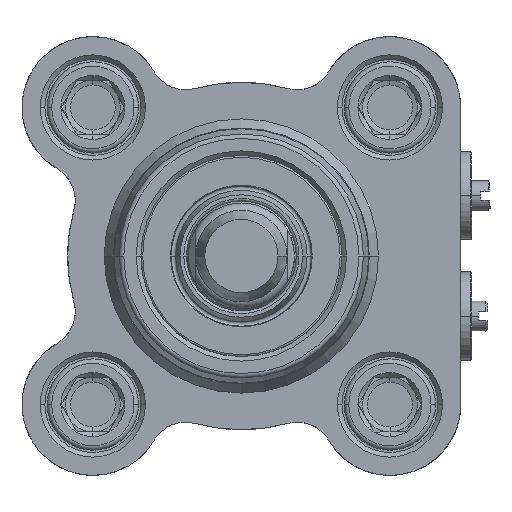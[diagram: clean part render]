
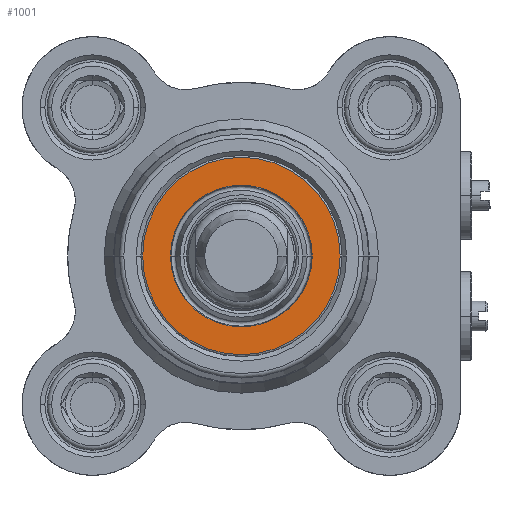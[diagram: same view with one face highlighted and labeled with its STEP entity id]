
A CAD part, front view. The second image highlights one B-rep face of the part: STEP entity #1001.
In plain terms, the highlighted planar face has unit normal (0, -1, 0).
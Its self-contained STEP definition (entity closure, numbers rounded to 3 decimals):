
#176 = AXIS2_PLACEMENT_3D ( 'NONE', #17705, #19521, #5522 ) ;
#832 = CARTESIAN_POINT ( 'NONE',  ( 0., -76.8, 0. ) ) ;
#961 = DIRECTION ( 'NONE',  ( -1., 0., 0. ) ) ;
#1001 = ADVANCED_FACE ( 'NONE', ( #5660, #12084 ), #10107, .F. ) ;
#1079 = AXIS2_PLACEMENT_3D ( 'NONE', #23146, #19489, #7461 ) ;
#1741 = ORIENTED_EDGE ( 'NONE', *, *, #17483, .F. ) ;
#3148 = VERTEX_POINT ( 'NONE', #12093 ) ;
#3558 = CIRCLE ( 'NONE', #1079, 10.8 ) ;
#5522 = DIRECTION ( 'NONE',  ( 0., 0., -1. ) ) ;
#5660 = FACE_OUTER_BOUND ( 'NONE', #7911, .T. ) ;
#6402 = CIRCLE ( 'NONE', #14779, 7.75 ) ;
#7461 = DIRECTION ( 'NONE',  ( -1., 0., 0. ) ) ;
#7911 = EDGE_LOOP ( 'NONE', ( #18417, #12085 ) ) ;
#9035 = DIRECTION ( 'NONE',  ( 0., -1., 0. ) ) ;
#9161 = VERTEX_POINT ( 'NONE', #9603 ) ;
#9400 = ORIENTED_EDGE ( 'NONE', *, *, #22809, .F. ) ;
#9603 = CARTESIAN_POINT ( 'NONE',  ( -10.8, -76.8, 0. ) ) ;
#9645 = VERTEX_POINT ( 'NONE', #12195 ) ;
#10107 = PLANE ( 'NONE',  #176 ) ;
#10885 = DIRECTION ( 'NONE',  ( 0., -1., 0. ) ) ;
#11282 = AXIS2_PLACEMENT_3D ( 'NONE', #17326, #24895, #12888 ) ;
#12084 = FACE_BOUND ( 'NONE', #12111, .T. ) ;
#12085 = ORIENTED_EDGE ( 'NONE', *, *, #19647, .T. ) ;
#12093 = CARTESIAN_POINT ( 'NONE',  ( -7.75, -76.8, 0. ) ) ;
#12111 = EDGE_LOOP ( 'NONE', ( #9400, #1741 ) ) ;
#12195 = CARTESIAN_POINT ( 'NONE',  ( 7.75, -76.8, 0. ) ) ;
#12546 = CIRCLE ( 'NONE', #11282, 10.8 ) ;
#12888 = DIRECTION ( 'NONE',  ( -1., 0., 0. ) ) ;
#13099 = DIRECTION ( 'NONE',  ( -1., 0., 0. ) ) ;
#14779 = AXIS2_PLACEMENT_3D ( 'NONE', #16892, #9035, #13099 ) ;
#15281 = VERTEX_POINT ( 'NONE', #18573 ) ;
#15911 = CIRCLE ( 'NONE', #18404, 7.75 ) ;
#16892 = CARTESIAN_POINT ( 'NONE',  ( 0., -76.8, 0. ) ) ;
#17326 = CARTESIAN_POINT ( 'NONE',  ( 0., -76.8, 0. ) ) ;
#17483 = EDGE_CURVE ( 'NONE', #9645, #3148, #6402, .T. ) ;
#17705 = CARTESIAN_POINT ( 'NONE',  ( 0., -76.8, -10.8 ) ) ;
#18404 = AXIS2_PLACEMENT_3D ( 'NONE', #832, #10885, #961 ) ;
#18417 = ORIENTED_EDGE ( 'NONE', *, *, #21482, .T. ) ;
#18573 = CARTESIAN_POINT ( 'NONE',  ( 10.8, -76.8, 0. ) ) ;
#19489 = DIRECTION ( 'NONE',  ( 0., -1., 0. ) ) ;
#19521 = DIRECTION ( 'NONE',  ( 0., 1., 0. ) ) ;
#19647 = EDGE_CURVE ( 'NONE', #9161, #15281, #3558, .T. ) ;
#21482 = EDGE_CURVE ( 'NONE', #15281, #9161, #12546, .T. ) ;
#22809 = EDGE_CURVE ( 'NONE', #3148, #9645, #15911, .T. ) ;
#23146 = CARTESIAN_POINT ( 'NONE',  ( 0., -76.8, 0. ) ) ;
#24895 = DIRECTION ( 'NONE',  ( 0., -1., 0. ) ) ;
